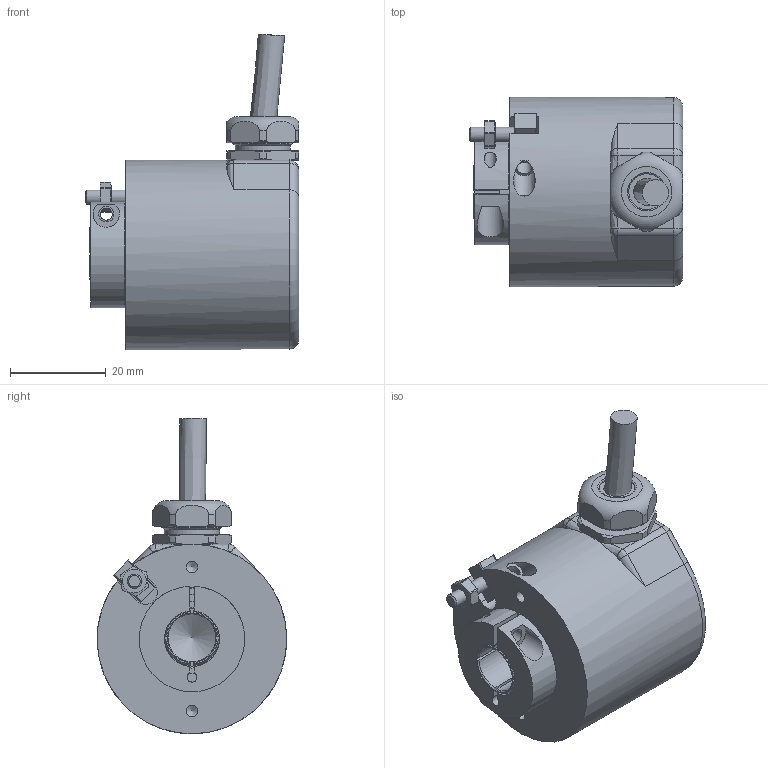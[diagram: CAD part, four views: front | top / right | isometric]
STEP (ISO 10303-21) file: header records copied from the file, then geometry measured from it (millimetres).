
FILE_DESCRIPTION( ( 'Unknown' ), '1' );
FILE_NAME( 'X:/I - Italia/UT - Ufficio Tecnico/Documenti Tecnico/Schede prodotti/InDesign/Assiemi SolidEdge per cataloghi/STEP ASSIEMI/EL38_G_albero10.stp', 'Unknown', ( 'Unknown' ), ( 'Unknown' ), 'PSStep 15.0.49', 'Unknown', ' ' );
FILE_SCHEMA( ( 'AUTOMOTIVE_DESIGN { 1 0 10303 214 1 1 1 1 }' ) );
Length unit declared in the file: millimetre
Products named in the file (30): 41320446B1
Bounding box: 44.51 x 39.49 x 65.73 mm (x, y, z)
Volume: 24827.6 mm3; surface area: 23172.4 mm2
Topology: 30 solids, 37 shells, 387 faces, 994 edges, 639 vertices
Faces by surface type: plane 140, cylinder 111, cone 73, sphere 34, torus 22, bspline 7
Full cylindrical faces by diameter (mm): 1.4 x3, 2.013 x3, 2.459 x3, 2.5 x1, 3 x2, 3.2 x1, 3.242 x1, 4.5 x1, 6 x2, 7.5 x1, 7.7 x1, 8 x1, 10 x3, 11 x1, 11.5 x1, 11.89 x1, 12 x4, 12.5 x1, 12.6 x2, 14.5 x1, 15 x4, 18.2 x4, 19 x1, 20.4 x2, 21 x2, 26.5 x1, 34.5 x1, 37.3 x2, 37.5 x1, 39.5 x1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
Entity records: 15244 total; most frequent: CARTESIAN_POINT 3562, DIRECTION 1781, ORIENTED_EDGE 1474, AXIS2_PLACEMENT_3D 765, EDGE_CURVE 737, VERTEX_POINT 588, EDGE_LOOP 515, FACE_OUTER_BOUND 427
